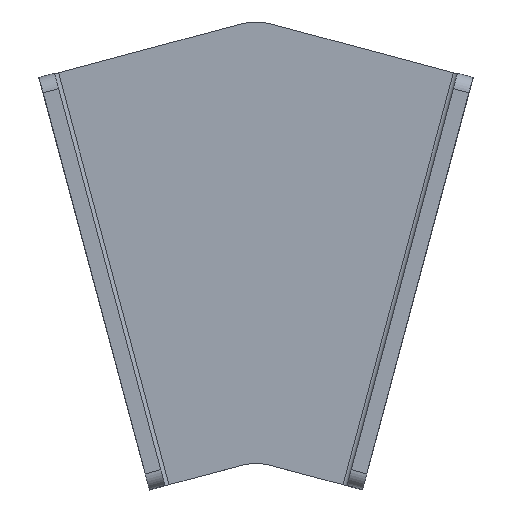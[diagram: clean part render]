
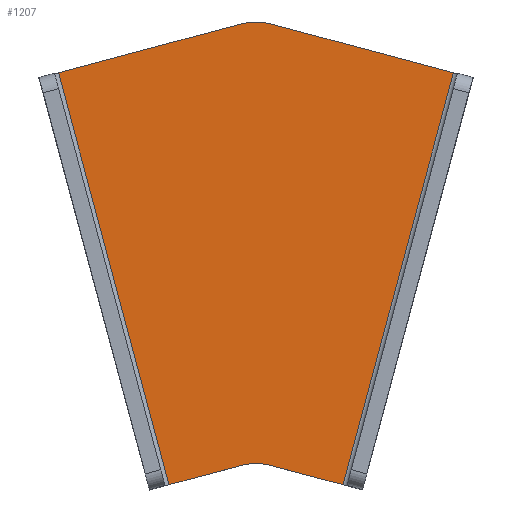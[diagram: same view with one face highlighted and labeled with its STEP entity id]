
A CAD part, top view. The second image highlights one B-rep face of the part: STEP entity #1207.
In plain terms, the highlighted planar face has unit normal (0, 0, 1).
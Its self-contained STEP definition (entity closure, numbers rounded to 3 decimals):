
#54 = VERTEX_POINT ( 'NONE', #1229 ) ;
#73 = ORIENTED_EDGE ( 'NONE', *, *, #613, .F. ) ;
#74 = ORIENTED_EDGE ( 'NONE', *, *, #1971, .T. ) ;
#85 = ORIENTED_EDGE ( 'NONE', *, *, #410, .T. ) ;
#87 = CARTESIAN_POINT ( 'NONE',  ( 37.035, 72.899, 3. ) ) ;
#115 = VERTEX_POINT ( 'NONE', #1086 ) ;
#130 = LINE ( 'NONE', #598, #789 ) ;
#167 = CARTESIAN_POINT ( 'NONE',  ( 0., 0., 3. ) ) ;
#203 = VERTEX_POINT ( 'NONE', #1525 ) ;
#212 = ORIENTED_EDGE ( 'NONE', *, *, #780, .T. ) ;
#268 = LINE ( 'NONE', #279, #1051 ) ;
#279 = CARTESIAN_POINT ( 'NONE',  ( 37.035, 72.899, 3. ) ) ;
#286 = ORIENTED_EDGE ( 'NONE', *, *, #1146, .T. ) ;
#309 = DIRECTION ( 'NONE',  ( 1., 0., 0. ) ) ;
#330 = VECTOR ( 'NONE', #1418, 1000. ) ;
#410 = EDGE_CURVE ( 'NONE', #54, #538, #268, .T. ) ;
#414 = CARTESIAN_POINT ( 'NONE',  ( 20.706, 77.274, 3. ) ) ;
#432 = DIRECTION ( 'NONE',  ( 0.966, 0.259, 0. ) ) ;
#511 = LINE ( 'NONE', #167, #330 ) ;
#525 = VECTOR ( 'NONE', #691, 1000. ) ;
#538 = VERTEX_POINT ( 'NONE', #87 ) ;
#598 = CARTESIAN_POINT ( 'NONE',  ( -16.329, -4.375, 3. ) ) ;
#613 = EDGE_CURVE ( 'NONE', #663, #115, #1016, .T. ) ;
#625 = EDGE_CURVE ( 'NONE', #538, #1891, #1320, .T. ) ;
#663 = VERTEX_POINT ( 'NONE', #999 ) ;
#691 = DIRECTION ( 'NONE',  ( -0.966, 0.259, 0. ) ) ;
#759 = DIRECTION ( 'NONE',  ( 1., 0., 0. ) ) ;
#766 = EDGE_LOOP ( 'NONE', ( #73, #74, #212, #1082, #1359, #85, #1890, #286 ) ) ;
#780 = EDGE_CURVE ( 'NONE', #1543, #203, #1379, .T. ) ;
#789 = VECTOR ( 'NONE', #1831, 1000. ) ;
#873 = EDGE_CURVE ( 'NONE', #1511, #54, #511, .T. ) ;
#888 = CARTESIAN_POINT ( 'NONE',  ( 2.588, -0.694, 3. ) ) ;
#913 = CARTESIAN_POINT ( 'NONE',  ( 0., -10.353, 3. ) ) ;
#999 = CARTESIAN_POINT ( 'NONE',  ( -37.035, 72.899, 3. ) ) ;
#1016 = LINE ( 'NONE', #1951, #1657 ) ;
#1037 = DIRECTION ( 'NONE',  ( 0.966, 0.259, 0. ) ) ;
#1045 = PLANE ( 'NONE',  #1604 ) ;
#1051 = VECTOR ( 'NONE', #1502, 1000. ) ;
#1069 = DIRECTION ( 'NONE',  ( 0., 0., -1. ) ) ;
#1082 = ORIENTED_EDGE ( 'NONE', *, *, #1520, .T. ) ;
#1086 = CARTESIAN_POINT ( 'NONE',  ( -2.588, 82.129, 3. ) ) ;
#1146 = EDGE_CURVE ( 'NONE', #1891, #115, #1159, .T. ) ;
#1159 = CIRCLE ( 'NONE', #1319, 10. ) ;
#1180 = CARTESIAN_POINT ( 'NONE',  ( -16.329, -4.375, 3. ) ) ;
#1195 = FACE_OUTER_BOUND ( 'NONE', #766, .T. ) ;
#1207 = ADVANCED_FACE ( 'NONE', ( #1195 ), #1045, .T. ) ;
#1219 = CARTESIAN_POINT ( 'NONE',  ( 0., 0., 3. ) ) ;
#1229 = CARTESIAN_POINT ( 'NONE',  ( 16.329, -4.375, 3. ) ) ;
#1310 = AXIS2_PLACEMENT_3D ( 'NONE', #913, #1069, #759 ) ;
#1319 = AXIS2_PLACEMENT_3D ( 'NONE', #1980, #1813, #309 ) ;
#1320 = LINE ( 'NONE', #414, #525 ) ;
#1356 = DIRECTION ( 'NONE',  ( 0., 0., 1. ) ) ;
#1359 = ORIENTED_EDGE ( 'NONE', *, *, #873, .T. ) ;
#1379 = LINE ( 'NONE', #1219, #1718 ) ;
#1418 = DIRECTION ( 'NONE',  ( 0.966, -0.259, 0. ) ) ;
#1470 = CIRCLE ( 'NONE', #1310, 10. ) ;
#1502 = DIRECTION ( 'NONE',  ( 0.259, 0.966, 0. ) ) ;
#1508 = CARTESIAN_POINT ( 'NONE',  ( 0., 0., 3. ) ) ;
#1511 = VERTEX_POINT ( 'NONE', #888 ) ;
#1516 = CARTESIAN_POINT ( 'NONE',  ( 2.588, 82.129, 3. ) ) ;
#1520 = EDGE_CURVE ( 'NONE', #203, #1511, #1470, .T. ) ;
#1525 = CARTESIAN_POINT ( 'NONE',  ( -2.588, -0.694, 3. ) ) ;
#1543 = VERTEX_POINT ( 'NONE', #1180 ) ;
#1604 = AXIS2_PLACEMENT_3D ( 'NONE', #1508, #1356, #1972 ) ;
#1657 = VECTOR ( 'NONE', #1037, 1000. ) ;
#1718 = VECTOR ( 'NONE', #432, 1000. ) ;
#1813 = DIRECTION ( 'NONE',  ( 0., 0., 1. ) ) ;
#1831 = DIRECTION ( 'NONE',  ( 0.259, -0.966, 0. ) ) ;
#1890 = ORIENTED_EDGE ( 'NONE', *, *, #625, .T. ) ;
#1891 = VERTEX_POINT ( 'NONE', #1516 ) ;
#1951 = CARTESIAN_POINT ( 'NONE',  ( -20.706, 77.274, 3. ) ) ;
#1971 = EDGE_CURVE ( 'NONE', #663, #1543, #130, .T. ) ;
#1972 = DIRECTION ( 'NONE',  ( 1., 0., 0. ) ) ;
#1980 = CARTESIAN_POINT ( 'NONE',  ( 0., 72.469, 3. ) ) ;
